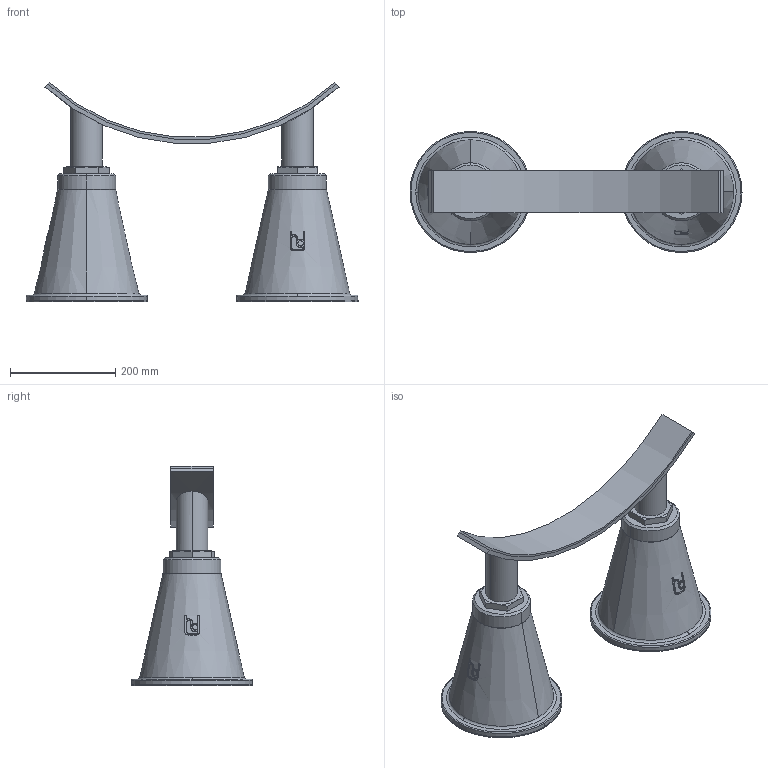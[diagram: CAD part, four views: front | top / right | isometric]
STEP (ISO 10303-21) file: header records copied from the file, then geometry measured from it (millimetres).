
FILE_DESCRIPTION(('STEP AP214'),'1');
FILE_NAME('RSRFA-DUO_DN800.stp','2018-07-02T09:30:27',(' '),(' '),'Spatial InterOp 3D',' ',' ');
FILE_SCHEMA(('automotive_design'));
Length unit declared in the file: millimetre
Products named in the file (10): 1; 2; 3; 4; 5; 6; 7; 8; 9; 10
Bounding box: 630 x 230 x 415.62 mm (x, y, z)
Volume: 11883179.7 mm3; surface area: 915734.6 mm2
Topology: 10 solids, 12 shells, 200 faces, 478 edges, 310 vertices
Faces by surface type: plane 84, cylinder 70, cone 38, torus 8
Entity records: 8617 total; most frequent: CARTESIAN_POINT 2174, DIRECTION 988, ORIENTED_EDGE 956, EDGE_CURVE 478, AXIS2_PLACEMENT_3D 388, VERTEX_POINT 310, EDGE_LOOP 216, LINE 212
